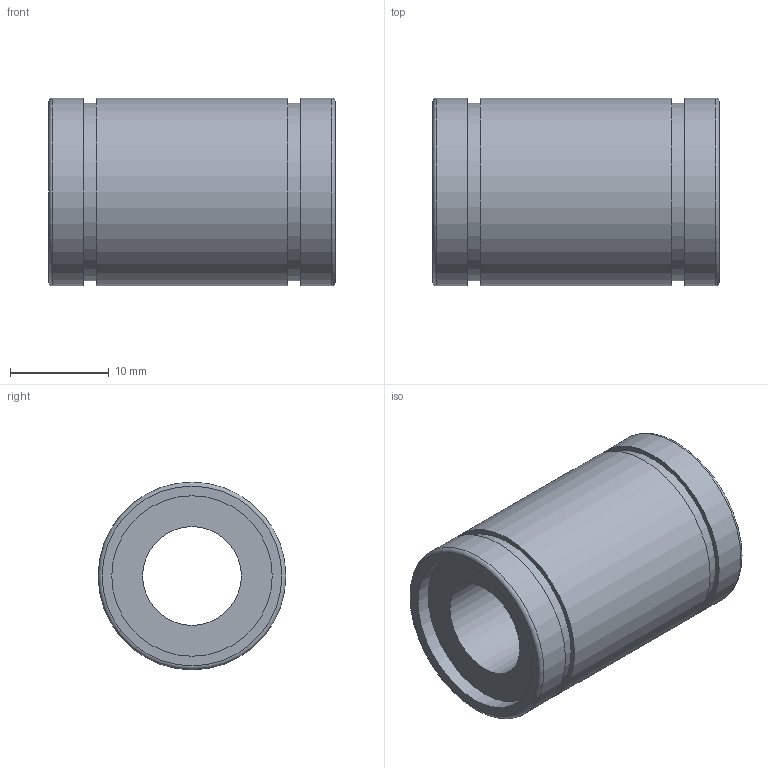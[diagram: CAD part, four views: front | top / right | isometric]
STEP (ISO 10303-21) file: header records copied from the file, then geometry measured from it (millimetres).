
FILE_DESCRIPTION( ( 'Unknown' ), '1' );
FILE_NAME( 'D:/累诀/己绕皋墨飘肺葱胶/11-04-06_档搁累己/01_府聪绢何教/LM/LM10.stp', 'Unknown', ( 'Unknown' ), ( 'Unknown' ), 'PSStep 11.0', 'Unknown', ' ' );
FILE_SCHEMA( ( 'AUTOMOTIVE_DESIGN { 1 0 10303 214 1 1 1 1 }' ) );
Length unit declared in the file: millimetre
Products named in the file (1): 1
Bounding box: 29 x 19 x 19 mm (x, y, z)
Volume: 5491.4 mm3; surface area: 3196.4 mm2
Topology: 1 solids, 1 shells, 18 faces, 29 edges, 19 vertices
Faces by surface type: plane 8, cylinder 8, torus 2
Full cylindrical faces by diameter (mm): 10 x1, 16.25 x2, 18 x2, 19 x3
Entity records: 528 total; most frequent: DIRECTION 74, CARTESIAN_POINT 55, AXIS2_PLACEMENT_3D 37, EDGE_LOOP 36, ORIENTED_EDGE 36, FACE_OUTER_BOUND 28, STYLED_ITEM 18, PRESENTATION_STYLE_ASSIGNMENT 18
